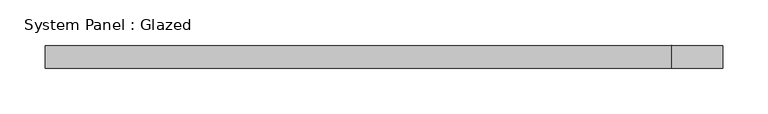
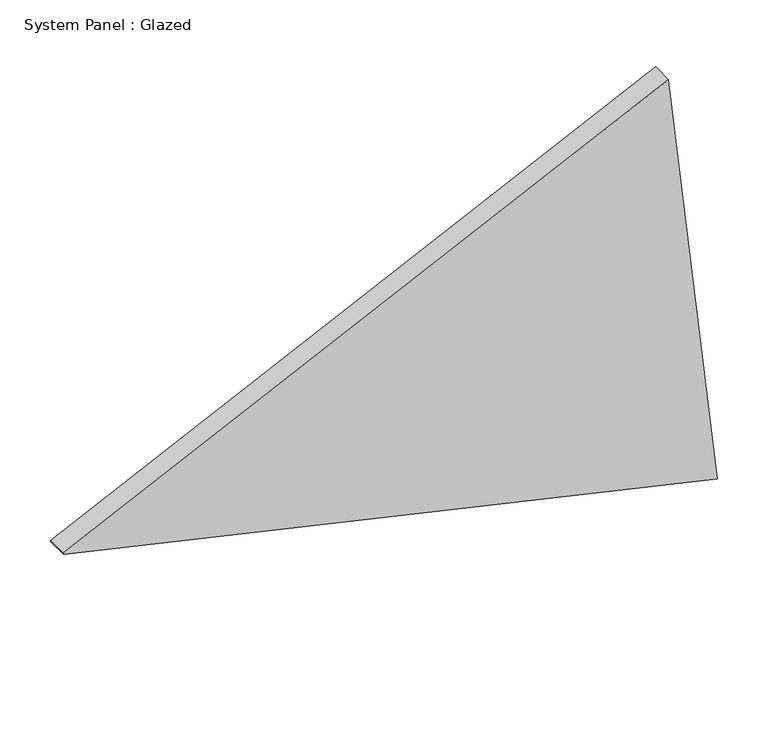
"""IFC4 building model written with IfcOpenShell, lengths in millimetres: plate geometry, System Panel : Glazed."""

import ifcopenshell
import ifcopenshell.guid

model = None  # the IFC model being written
_history = None  # IfcOwnerHistory: only IFC2X3 demands one
_inside = {}  # id of a spatial element -> (the spatial element, [elements in it])
_under = {}  # id of a project, library or spatial element -> (it, [spatial elements below it])
_declared = {}  # id of a project -> (the project, [libraries it declares])
_typed = {}  # id of a type object -> (the type object, [elements of that type])
_made_of = {}  # id of a material, layer set ... -> (it, [elements and type objects made of it])


def new_model(schema):
    """Start an empty IFC model of exactly this schema.

    Asked for "IFC4X3", IfcOpenShell would pick the latest addendum, in which some entities
    have other attributes; the version numbers below select the first issue.
    IFC2X3 requires an IfcOwnerHistory on every rooted entity: one is made here for all.
    """
    global model, _history
    if schema == "IFC4X3":
        model = ifcopenshell.file(schema_version=(4, 3, 0, 0))
    else:
        model = ifcopenshell.file(schema=schema)
    _inside.clear()
    _under.clear()
    _declared.clear()
    _typed.clear()
    _made_of.clear()
    _history = None
    if model.schema == "IFC2X3":
        org = make("IfcOrganization", Name="unknown")
        user = make(
            "IfcPersonAndOrganization",
            ThePerson=make("IfcPerson", FamilyName="unknown"),
            TheOrganization=org,
        )
        app = make(
            "IfcApplication",
            ApplicationDeveloper=org,
            Version="unknown",
            ApplicationFullName="unknown",
            ApplicationIdentifier="unknown",
        )
        _history = make(
            "IfcOwnerHistory",
            OwningUser=user,
            OwningApplication=app,
            ChangeAction="ADDED",
            CreationDate=0,
        )
    return model


def make(cls, **values):
    """One entity of the class cls with the attributes given. An attribute that is None is left unset."""
    return model.create_entity(
        cls, **{name: value for name, value in values.items() if value is not None}
    )


def rooted(cls, **values):
    """An entity with a GlobalId (a new one), such as an element, a storey or a relation."""
    return make(cls, GlobalId=ifcopenshell.guid.new(), OwnerHistory=_history, **values)


def si_unit(unit_type, name, prefix=None):
    """IfcSIUnit, for example si_unit("LENGTHUNIT", "METRE", prefix="MILLI")."""
    return make("IfcSIUnit", UnitType=unit_type, Prefix=prefix, Name=name)


def assignment(units):
    """IfcUnitAssignment: the units of a project."""
    return None if units is None else make("IfcUnitAssignment", Units=units)


def point(xyz):
    """IfcCartesianPoint."""
    return None if xyz is None else make("IfcCartesianPoint", Coordinates=xyz)


def direction(xyz):
    """IfcDirection."""
    return None if xyz is None else make("IfcDirection", DirectionRatios=xyz)


def frame(location, z_axis=None, x_axis=None):
    """IfcAxis2Placement3D, a coordinate frame: its origin and axes. An axis left out is left unset."""
    return make(
        "IfcAxis2Placement3D",
        Location=point(location),
        Axis=direction(z_axis),
        RefDirection=direction(x_axis),
    )


def origin():
    """The frame at (0, 0, 0) with its axes left unset."""
    return frame((0.0, 0.0, 0.0))


def place(relative_to, where):
    """IfcLocalPlacement: puts the frame where relative to a parent placement (None: the world)."""
    return make(
        "IfcLocalPlacement", PlacementRelTo=relative_to, RelativePlacement=where
    )


def context(
    kind, dimensions, precision=None, world=None, true_north=None, identifier=None
):
    """IfcGeometricRepresentationContext, for example the 3D "Model" context."""
    return make(
        "IfcGeometricRepresentationContext",
        ContextIdentifier=identifier,
        ContextType=kind,
        CoordinateSpaceDimension=dimensions,
        Precision=precision,
        WorldCoordinateSystem=world,
        TrueNorth=true_north,
    )


def project(units=None, contexts=None):
    """IfcProject with its units and contexts."""
    return rooted(
        "IfcProject",
        Name="project",
        RepresentationContexts=contexts,
        UnitsInContext=assignment(units),
    )


def spatial(cls, under=None, at=None, **own):
    """A site, building, storey or space (cls), placed at a placement, below another one or the project."""
    s = rooted(cls, ObjectPlacement=at, **own)
    if under is not None:
        _under.setdefault(under.id(), (under, []))[1].append(s)
    return s


def polyline(points):
    """IfcPolyline through the points."""
    return make("IfcPolyline", Points=[point(p) for p in points])


def outline(outer, holes=None, kind="AREA"):
    """IfcArbitraryClosedProfileDef: a profile drawn as a closed curve; with holes, ...WithVoids."""
    if holes is None:
        return make("IfcArbitraryClosedProfileDef", ProfileType=kind, OuterCurve=outer)
    return make(
        "IfcArbitraryProfileDefWithVoids",
        ProfileType=kind,
        OuterCurve=outer,
        InnerCurves=holes,
    )


def extrude(swept, where, along, depth):
    """IfcExtrudedAreaSolid: the profile swept, set in the frame where, extruded along a direction by depth."""
    return make(
        "IfcExtrudedAreaSolid",
        SweptArea=swept,
        Position=where,
        ExtrudedDirection=direction(along),
        Depth=depth,
    )


def shape(context_of_items, identifier, shape_type, items):
    """IfcShapeRepresentation: the items that make up one representation, for example the "Body"."""
    return make(
        "IfcShapeRepresentation",
        ContextOfItems=context_of_items,
        RepresentationIdentifier=identifier,
        RepresentationType=shape_type,
        Items=items,
    )


def source(mapping_origin, context_of_items, identifier, shape_type, items):
    """IfcRepresentationMap: a shape defined once, which mapped items show again and again."""
    return make(
        "IfcRepresentationMap",
        MappingOrigin=mapping_origin,
        MappedRepresentation=shape(context_of_items, identifier, shape_type, items),
    )


def transform(
    local_origin,
    x_axis=None,
    y_axis=None,
    z_axis=None,
    scale=None,
    scale2=None,
    scale3=None,
    uniform=True,
):
    """IfcCartesianTransformationOperator3D, or its non-uniform kind. x_axis, y_axis, z_axis: its Axis1, 2, 3."""
    if uniform:
        return make(
            "IfcCartesianTransformationOperator3D",
            Axis1=direction(x_axis),
            Axis2=direction(y_axis),
            LocalOrigin=point(local_origin),
            Scale=scale,
            Axis3=direction(z_axis),
        )
    return make(
        "IfcCartesianTransformationOperator3DnonUniform",
        Axis1=direction(x_axis),
        Axis2=direction(y_axis),
        LocalOrigin=point(local_origin),
        Scale=scale,
        Axis3=direction(z_axis),
        Scale2=scale2,
        Scale3=scale3,
    )


def mapped(mapping_source, mapping_target):
    """IfcMappedItem: shows the shape of a source again, moved by a transform."""
    return make(
        "IfcMappedItem", MappingSource=mapping_source, MappingTarget=mapping_target
    )


def made_of(thing, what):
    """Note that an element or type object is made of a material, layer set ...; save() writes the relation."""
    if what is not None:
        _made_of.setdefault(what.id(), (what, []))[1].append(thing)
    return thing


def element(
    cls,
    number,
    at=None,
    inside=None,
    cuts=None,
    type_object=None,
    material=None,
    context=None,
    identifier="Body",
    shape_type=None,
    held_by="IfcProductDefinitionShape",
    body=None,
    shapes=None,
    **own,
):
    """One element of the class cls, such as IfcWall. Its Tag is "e" and its number.

    at: its placement. inside: the storey or other place that contains it. cuts: it is an
    opening in that element (IfcRelVoidsElement). A single representation is given by context,
    identifier, shape_type and body (its items); several are given by shapes. held_by: the class
    of the entity that holds the representations. save() writes the other relations.
    """
    e = rooted(cls, Tag="e%d" % number, ObjectPlacement=at, **own)
    if body is not None:
        shapes = [shape(context, identifier, shape_type, body)]
    if shapes is not None:
        e.Representation = make(held_by, Representations=shapes)
    if inside is not None:
        _inside.setdefault(inside.id(), (inside, []))[1].append(e)
    if cuts is not None:
        rooted(
            "IfcRelVoidsElement", RelatingBuildingElement=cuts, RelatedOpeningElement=e
        )
    if type_object is not None:
        _typed.setdefault(type_object.id(), (type_object, []))[1].append(e)
    return made_of(e, material)


def aggregate(whole, parts):
    """IfcRelAggregates: a whole, such as a stair, and the parts it consists of."""
    return rooted("IfcRelAggregates", RelatingObject=whole, RelatedObjects=parts)


def save(model, path):
    """Write the relations noted so far, then the file.

    IfcRelAggregates (storeys below a building ...), IfcRelContainedInSpatialStructure (elements
    in a storey), IfcRelDefinesByType, IfcRelAssociatesMaterial and IfcRelDeclares: one each for
    every whole, place, type object, material and project.
    """
    for whole, parts in _under.values():
        aggregate(whole, parts)
    for where, things in _inside.values():
        rooted(
            "IfcRelContainedInSpatialStructure",
            RelatedElements=things,
            RelatingStructure=where,
        )
    for kind, things in _typed.values():
        rooted("IfcRelDefinesByType", RelatedObjects=things, RelatingType=kind)
    for what, things in _made_of.values():
        rooted("IfcRelAssociatesMaterial", RelatedObjects=things, RelatingMaterial=what)
    for by, libraries in _declared.values():
        rooted("IfcRelDeclares", RelatingContext=by, RelatedDefinitions=libraries)
    model.write(path)


def system_panel_glazed_f4372532(model_context):
    return source(origin(), model_context, "Body", "SweptSolid", [
        extrude(outline(polyline([(169.4405073, -371.8007484), (0.0, 371.9865473), (500.2473012, 316.1965354), (171.1064932, -371.9865473), (169.4405073, -371.8007484)])), frame((0.0, -49.5, 0.0), z_axis=(0.0, 1.0, 0.0), x_axis=(0.0, 0.0, 1.0)), (0.0, 0.0, 1.0), 25.0),
    ])


if __name__ == "__main__":
    model = new_model("IFC4")
    model_context = context("Model", 3, world=origin())
    ifc_project = project(units=[si_unit("LENGTHUNIT", "METRE", prefix="MILLI")], contexts=[model_context])
    site = spatial("IfcSite", under=ifc_project)
    building = spatial("IfcBuilding", under=site)
    placement = place(None, origin())
    system_panel_glazed_shape = system_panel_glazed_f4372532(model_context)
    element("IfcPlate", 1, ObjectType="System Panel : Glazed", at=placement, inside=building, context=model_context, shape_type="MappedRepresentation", body=[
        mapped(system_panel_glazed_shape, transform((0.0, 0.0, 0.0), x_axis=(1.0, 0.0, 0.0), y_axis=(0.0, 1.0, 0.0), z_axis=(0.0, 0.0, 1.0))),
    ])
    save(model, "model.ifc")
